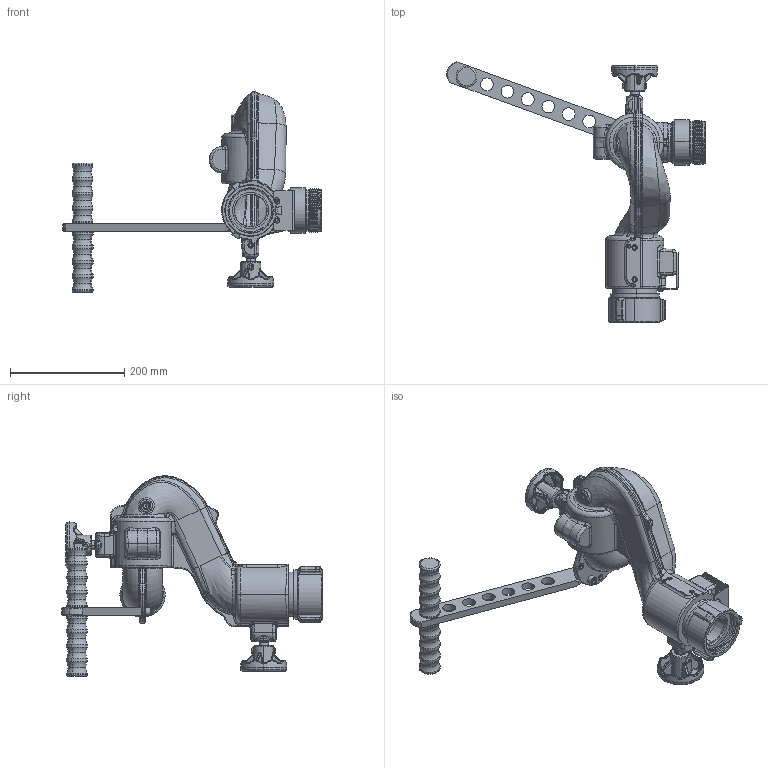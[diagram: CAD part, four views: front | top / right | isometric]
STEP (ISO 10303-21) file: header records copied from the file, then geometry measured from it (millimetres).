
FILE_DESCRIPTION (( 'STEP AP203' ), '1' );
FILE_NAME ('Y2-T11A_Horizontal.STEP', '2014-07-03T15:48:02', ( '' ), ( '' ), 'SwSTEP 2.0', 'SolidWorks 2014', '' );
FILE_SCHEMA (( 'CONFIG_CONTROL_DESIGN' ));
Length unit declared in the file: inch
Products named in the file (1): Y2-T11A_Horizontal
Bounding box: 453.13 x 456.5 x 350.8 mm (x, y, z)
Surface area: 409434.5 mm2 (no closed solid volume)
Topology: 0 solids, 35 shells, 1465 faces, 4124 edges, 2594 vertices
Faces by surface type: bspline 437, cylinder 401, plane 258, torus 205, cone 144, sphere 20
Entity records: 102570 total; most frequent: CARTESIAN_POINT 69193, ORIENTED_EDGE 7267, DIRECTION 6181, EDGE_CURVE 4104, VERTEX_POINT 2591, AXIS2_PLACEMENT_3D 2488, EDGE_LOOP 1546, ADVANCED_FACE 1465
